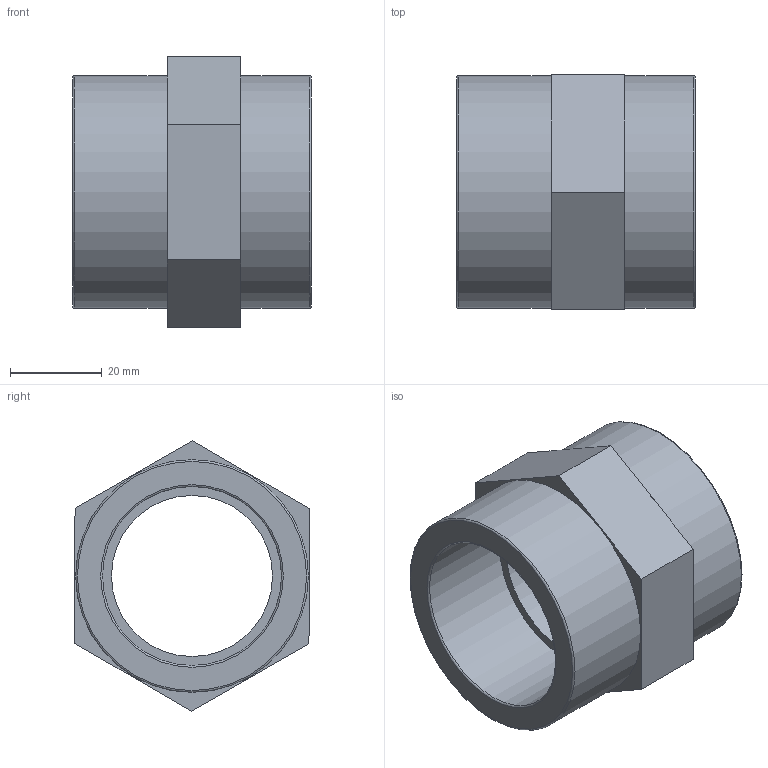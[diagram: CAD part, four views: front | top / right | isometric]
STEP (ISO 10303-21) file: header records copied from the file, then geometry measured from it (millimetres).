
FILE_DESCRIPTION(/* description */ ('PLASSON THREADED SOCKET PVC 1.1/4"'),/* implementation_level */ '2;1');
FILE_NAME(/* name */ 'C:\Dropbox\KIMPROJECTS-Inventor\99-16-3568-Processing\PVC Catalog 2017\050101\050101013.ipt.stp',/* time_stamp */ '2017-12-07T15:51:41+02:00',/* author */ ('KIM'),/* organization */ (''),/* preprocessor_version */ 'ST-DEVELOPER v15.6',/* originating_system */ 'Autodesk Inventor 2015',/* authorisation */ '');
FILE_SCHEMA (('AUTOMOTIVE_DESIGN { 1 0 10303 214 3 1 1 }'));
Length unit declared in the file: millimetre
Products named in the file (1): 050101013
Bounding box: 52 x 51.08 x 58.89 mm (x, y, z)
Volume: 48367.7 mm3; surface area: 17299.6 mm2
Topology: 1 solids, 1 shells, 21 faces, 41 edges, 26 vertices
Faces by surface type: plane 12, cylinder 5, torus 4
Full cylindrical faces by diameter (mm): 35.057 x1, 38.952 x2, 50.638 x2
Entity records: 520 total; most frequent: DIRECTION 90, CARTESIAN_POINT 80, ORIENTED_EDGE 64, EDGE_LOOP 36, AXIS2_PLACEMENT_3D 36, EDGE_CURVE 32, VERTEX_POINT 26, FACE_OUTER_BOUND 21
